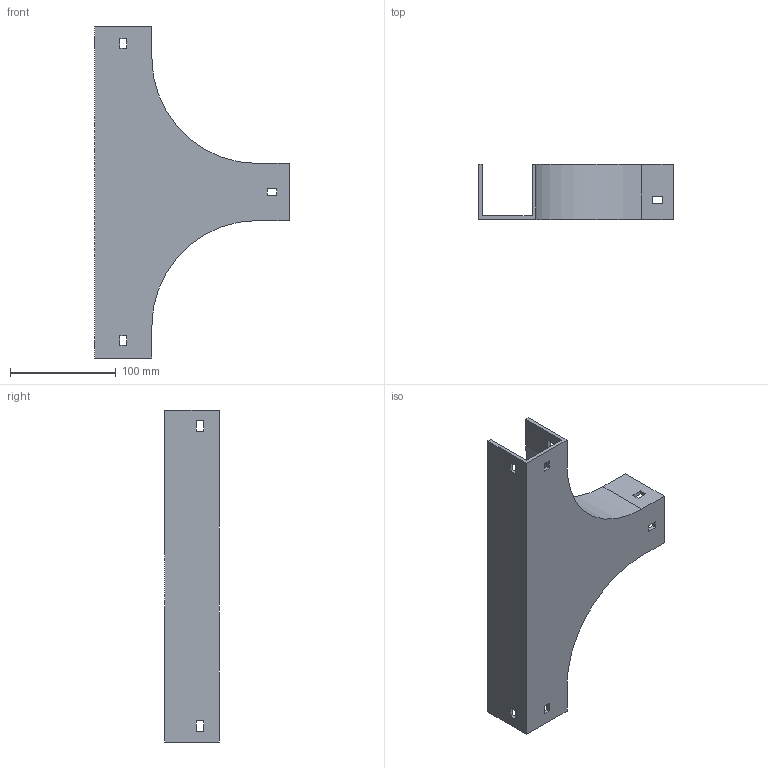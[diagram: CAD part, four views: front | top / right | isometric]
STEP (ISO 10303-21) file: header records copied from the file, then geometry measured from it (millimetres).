
FILE_DESCRIPTION (( 'STEP AP214' ), '1' );
FILE_NAME ('15F1B050.step', '2025-02-21T13:04:00', ( '' ), ( '' ), 'SwSTEP 2.0', 'SolidWorks 2023', '' );
FILE_SCHEMA (( 'AUTOMOTIVE_DESIGN' ));
Length unit declared in the file: millimetre
Products named in the file (1): 15F1B050
Bounding box: 184 x 52 x 314 mm (x, y, z)
Volume: 224787.2 mm3; surface area: 133693.4 mm2
Topology: 1 solids, 1 shells, 58 faces, 168 edges, 112 vertices
Faces by surface type: plane 54, cylinder 4
Entity records: 1939 total; most frequent: CARTESIAN_POINT 339, ORIENTED_EDGE 336, DIRECTION 294, EDGE_CURVE 168, LINE 160, VECTOR 160, VERTEX_POINT 112, EDGE_LOOP 76
